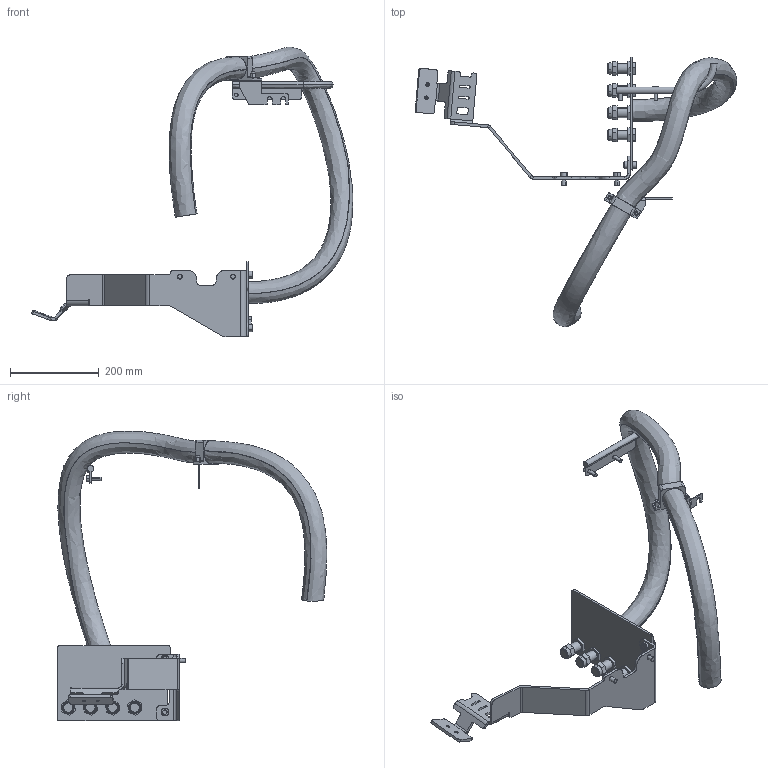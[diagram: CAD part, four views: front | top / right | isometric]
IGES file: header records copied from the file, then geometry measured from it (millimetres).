
Start section: SolidWorks IGES file using analytic representation for surfaces
Global section: file name: C:\Users\SEAMSTO1\OneDrive - ABB\PT\Macro\IGES\IRB6760-MH3_200kg-320_OC_00_IGES_J\IRB6760-MH3_All_OC_00_LINK03a_CABLE.igs; native system: SolidWorks 2024; preprocessor: SolidWorks 2024; author: SEAMSTO1; date: 250930.151450; units: millimetre
Bounding box: 725.14 x 608.07 x 653.62 mm (x, y, z)
Surface area: 508387.9 mm2 (no closed solid volume)
Topology: 0 solids, 0 shells, 435 faces, 5717 edges, 5717 vertices
Faces by surface type: bspline 277, revolution 158
